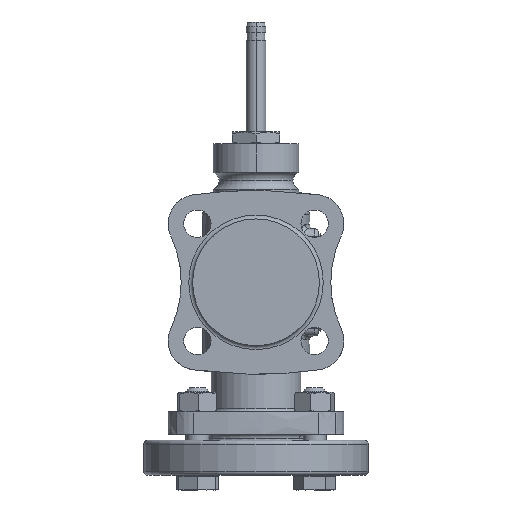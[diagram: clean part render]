
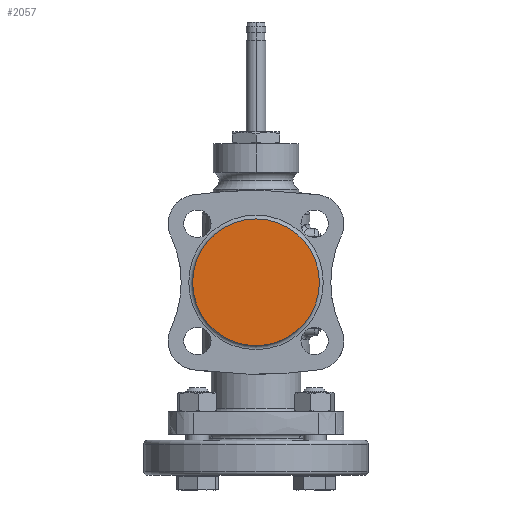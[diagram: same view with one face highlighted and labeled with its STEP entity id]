
A CAD part, left-side view. The second image highlights one B-rep face of the part: STEP entity #2057.
In plain terms, the highlighted planar face has unit normal (-1, 0, 0).
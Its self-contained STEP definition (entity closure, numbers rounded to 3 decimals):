
#1418=FACE_OUTER_BOUND('',#3002,.T.);
#2057=ADVANCED_FACE('',(#1418),#2382,.T.);
#2382=PLANE('',#6344);
#3002=EDGE_LOOP('',(#3603));
#3603=ORIENTED_EDGE('',*,*,#5436,.F.);
#4966=VERTEX_POINT('',#9635);
#5436=EDGE_CURVE('',#4966,#4966,#6036,.T.);
#6036=CIRCLE('',#6342,32.5);
#6342=AXIS2_PLACEMENT_3D('',#9634,#7068,#7069);
#6344=AXIS2_PLACEMENT_3D('',#9637,#7072,#7073);
#7068=DIRECTION('',(1.,0.,0.));
#7069=DIRECTION('',(0.,0.,-1.));
#7072=DIRECTION('',(-1.,0.,0.));
#7073=DIRECTION('',(0.,0.,-1.));
#9634=CARTESIAN_POINT('',(110.,0.,0.));
#9635=CARTESIAN_POINT('',(110.,0.,-32.5));
#9637=CARTESIAN_POINT('',(110.,0.,0.));
